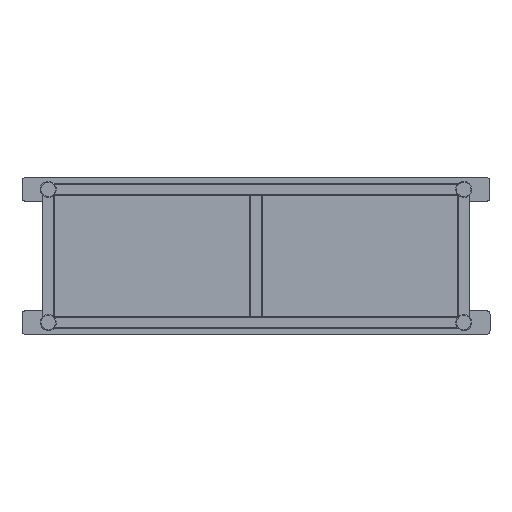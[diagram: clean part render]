
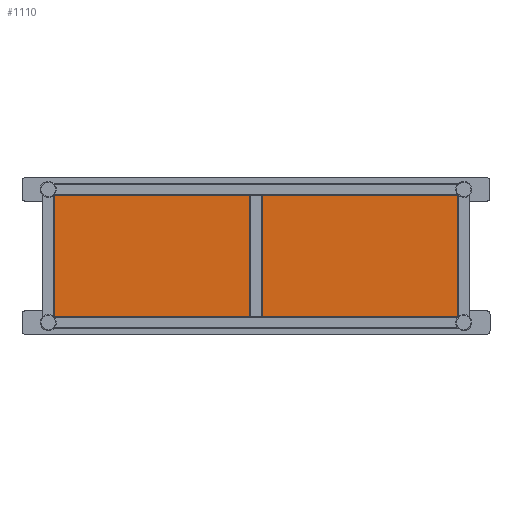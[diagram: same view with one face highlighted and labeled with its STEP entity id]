
A CAD part, front view. The second image highlights one B-rep face of the part: STEP entity #1110.
In plain terms, the highlighted planar face has unit normal (0, -1, 0).
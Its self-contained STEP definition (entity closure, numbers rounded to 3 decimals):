
#1 = DIRECTION ( 'NONE',  ( 0., 0., -1. ) ) ;
#4 = EDGE_CURVE ( 'NONE', #2682, #2059, #648, .T. ) ;
#18 = CARTESIAN_POINT ( 'NONE',  ( 285., -2., -85. ) ) ;
#109 = DIRECTION ( 'NONE',  ( 1., 0., 0. ) ) ;
#123 = LINE ( 'NONE', #181, #393 ) ;
#150 = ORIENTED_EDGE ( 'NONE', *, *, #3209, .F. ) ;
#181 = CARTESIAN_POINT ( 'NONE',  ( 285., -2., -100. ) ) ;
#214 = ORIENTED_EDGE ( 'NONE', *, *, #3623, .F. ) ;
#246 = VERTEX_POINT ( 'NONE', #2306 ) ;
#276 = EDGE_CURVE ( 'NONE', #3392, #3585, #664, .T. ) ;
#364 = CARTESIAN_POINT ( 'NONE',  ( 285., -2., 80. ) ) ;
#375 = ORIENTED_EDGE ( 'NONE', *, *, #4215, .F. ) ;
#383 = ORIENTED_EDGE ( 'NONE', *, *, #727, .F. ) ;
#393 = VECTOR ( 'NONE', #2087, 1000. ) ;
#434 = CARTESIAN_POINT ( 'NONE',  ( -230., -2., 65. ) ) ;
#461 = DIRECTION ( 'NONE',  ( 1., 0., 0. ) ) ;
#578 = DIRECTION ( 'NONE',  ( 0., 0., -1. ) ) ;
#648 = LINE ( 'NONE', #1967, #1503 ) ;
#664 = LINE ( 'NONE', #2355, #964 ) ;
#727 = EDGE_CURVE ( 'NONE', #2059, #3173, #3064, .T. ) ;
#763 = CARTESIAN_POINT ( 'NONE',  ( 285., -2., 65. ) ) ;
#831 = DIRECTION ( 'NONE',  ( 1., 0., 0. ) ) ;
#895 = VECTOR ( 'NONE', #3561, 1000. ) ;
#964 = VECTOR ( 'NONE', #1, 1000. ) ;
#1003 = ORIENTED_EDGE ( 'NONE', *, *, #1745, .F. ) ;
#1050 = ORIENTED_EDGE ( 'NONE', *, *, #3042, .F. ) ;
#1061 = CARTESIAN_POINT ( 'NONE',  ( 285., -2., -100. ) ) ;
#1064 = ORIENTED_EDGE ( 'NONE', *, *, #1870, .F. ) ;
#1110 = ADVANCED_FACE ( 'NONE', ( #3272 ), #3250, .F. ) ;
#1210 = VERTEX_POINT ( 'NONE', #2502 ) ;
#1246 = VECTOR ( 'NONE', #109, 1000. ) ;
#1288 = VERTEX_POINT ( 'NONE', #2357 ) ;
#1303 = VECTOR ( 'NONE', #461, 1000. ) ;
#1333 = DIRECTION ( 'NONE',  ( 0., 0., 1. ) ) ;
#1357 = VECTOR ( 'NONE', #2987, 1000. ) ;
#1365 = EDGE_CURVE ( 'NONE', #2120, #246, #3612, .T. ) ;
#1385 = VERTEX_POINT ( 'NONE', #1061 ) ;
#1487 = ORIENTED_EDGE ( 'NONE', *, *, #276, .F. ) ;
#1503 = VECTOR ( 'NONE', #3599, 1000. ) ;
#1535 = CARTESIAN_POINT ( 'NONE',  ( -230., -2., -85. ) ) ;
#1598 = VERTEX_POINT ( 'NONE', #3763 ) ;
#1681 = DIRECTION ( 'NONE',  ( -1., 0., 0. ) ) ;
#1687 = LINE ( 'NONE', #2248, #895 ) ;
#1745 = EDGE_CURVE ( 'NONE', #3173, #1598, #3826, .T. ) ;
#1746 = ORIENTED_EDGE ( 'NONE', *, *, #4, .F. ) ;
#1807 = CARTESIAN_POINT ( 'NONE',  ( 300., -2., -85. ) ) ;
#1825 = DIRECTION ( 'NONE',  ( -1., 0., 0. ) ) ;
#1870 = EDGE_CURVE ( 'NONE', #2240, #1385, #3938, .T. ) ;
#1967 = CARTESIAN_POINT ( 'NONE',  ( -215., -2., 65. ) ) ;
#2046 = VECTOR ( 'NONE', #1681, 1000. ) ;
#2059 = VERTEX_POINT ( 'NONE', #2536 ) ;
#2087 = DIRECTION ( 'NONE',  ( -1., 0., 0. ) ) ;
#2120 = VERTEX_POINT ( 'NONE', #4170 ) ;
#2170 = LINE ( 'NONE', #1535, #2468 ) ;
#2240 = VERTEX_POINT ( 'NONE', #2576 ) ;
#2248 = CARTESIAN_POINT ( 'NONE',  ( -215., -2., -100. ) ) ;
#2301 = CARTESIAN_POINT ( 'NONE',  ( 300., -2., -85. ) ) ;
#2306 = CARTESIAN_POINT ( 'NONE',  ( -230., -2., -85. ) ) ;
#2355 = CARTESIAN_POINT ( 'NONE',  ( 300., -2., 65. ) ) ;
#2357 = CARTESIAN_POINT ( 'NONE',  ( -215., -2., -100. ) ) ;
#2394 = VECTOR ( 'NONE', #1825, 1000. ) ;
#2468 = VECTOR ( 'NONE', #2888, 1000. ) ;
#2502 = CARTESIAN_POINT ( 'NONE',  ( -230., -2., 65. ) ) ;
#2536 = CARTESIAN_POINT ( 'NONE',  ( -215., -2., 80. ) ) ;
#2537 = CARTESIAN_POINT ( 'NONE',  ( 300., -2., 65. ) ) ;
#2576 = CARTESIAN_POINT ( 'NONE',  ( 285., -2., -85. ) ) ;
#2682 = VERTEX_POINT ( 'NONE', #2909 ) ;
#2688 = ORIENTED_EDGE ( 'NONE', *, *, #3202, .F. ) ;
#2888 = DIRECTION ( 'NONE',  ( 0., 0., 1. ) ) ;
#2909 = CARTESIAN_POINT ( 'NONE',  ( -215., -2., 65. ) ) ;
#2962 = DIRECTION ( 'NONE',  ( 0., 1., 0. ) ) ;
#2987 = DIRECTION ( 'NONE',  ( 0., 0., -1. ) ) ;
#2995 = VECTOR ( 'NONE', #831, 1000. ) ;
#3042 = EDGE_CURVE ( 'NONE', #246, #1210, #2170, .T. ) ;
#3058 = LINE ( 'NONE', #434, #1246 ) ;
#3064 = LINE ( 'NONE', #4103, #1303 ) ;
#3173 = VERTEX_POINT ( 'NONE', #364 ) ;
#3202 = EDGE_CURVE ( 'NONE', #1385, #1288, #123, .T. ) ;
#3209 = EDGE_CURVE ( 'NONE', #3585, #2240, #3389, .T. ) ;
#3250 = PLANE ( 'NONE',  #3268 ) ;
#3268 = AXIS2_PLACEMENT_3D ( 'NONE', #4232, #2962, #1333 ) ;
#3272 = FACE_OUTER_BOUND ( 'NONE', #4070, .T. ) ;
#3389 = LINE ( 'NONE', #1807, #2394 ) ;
#3392 = VERTEX_POINT ( 'NONE', #2537 ) ;
#3525 = ORIENTED_EDGE ( 'NONE', *, *, #1365, .F. ) ;
#3561 = DIRECTION ( 'NONE',  ( 0., 0., 1. ) ) ;
#3585 = VERTEX_POINT ( 'NONE', #2301 ) ;
#3599 = DIRECTION ( 'NONE',  ( 0., 0., 1. ) ) ;
#3612 = LINE ( 'NONE', #3640, #2046 ) ;
#3623 = EDGE_CURVE ( 'NONE', #1598, #3392, #4101, .T. ) ;
#3640 = CARTESIAN_POINT ( 'NONE',  ( -215., -2., -85. ) ) ;
#3752 = VECTOR ( 'NONE', #578, 1000. ) ;
#3763 = CARTESIAN_POINT ( 'NONE',  ( 285., -2., 65. ) ) ;
#3826 = LINE ( 'NONE', #3851, #3752 ) ;
#3851 = CARTESIAN_POINT ( 'NONE',  ( 285., -2., 80. ) ) ;
#3938 = LINE ( 'NONE', #18, #1357 ) ;
#4070 = EDGE_LOOP ( 'NONE', ( #214, #1003, #383, #1746, #375, #1050, #3525, #4228, #2688, #1064, #150, #1487 ) ) ;
#4076 = EDGE_CURVE ( 'NONE', #1288, #2120, #1687, .T. ) ;
#4101 = LINE ( 'NONE', #763, #2995 ) ;
#4103 = CARTESIAN_POINT ( 'NONE',  ( -215., -2., 80. ) ) ;
#4170 = CARTESIAN_POINT ( 'NONE',  ( -215., -2., -85. ) ) ;
#4215 = EDGE_CURVE ( 'NONE', #1210, #2682, #3058, .T. ) ;
#4228 = ORIENTED_EDGE ( 'NONE', *, *, #4076, .F. ) ;
#4232 = CARTESIAN_POINT ( 'NONE',  ( 0., -2., 0. ) ) ;
